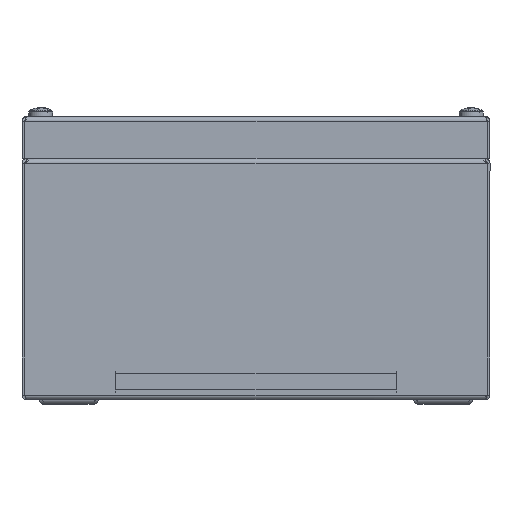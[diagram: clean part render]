
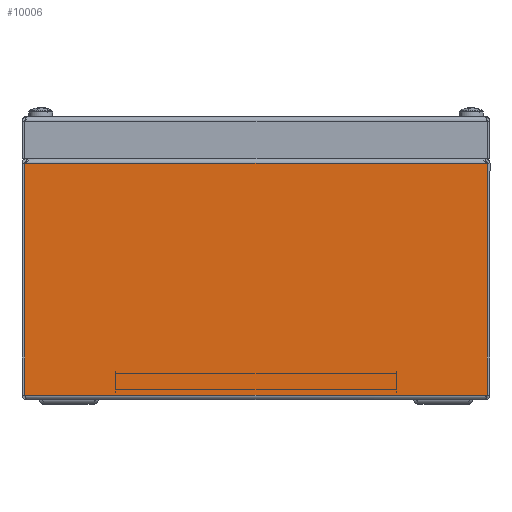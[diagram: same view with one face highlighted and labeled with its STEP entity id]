
A CAD part, front view. The second image highlights one B-rep face of the part: STEP entity #10006.
In plain terms, the highlighted planar face has unit normal (0, -1, 0).
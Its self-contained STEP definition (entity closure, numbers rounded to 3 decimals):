
#116 = PLANE ( 'NONE',  #7106 ) ;
#591 = CARTESIAN_POINT ( 'NONE',  ( -100., -200., 0.737 ) ) ;
#850 = CARTESIAN_POINT ( 'NONE',  ( -98.729, -200., 99.863 ) ) ;
#1375 = LINE ( 'NONE', #9859, #12292 ) ;
#1940 = CARTESIAN_POINT ( 'NONE',  ( 98.729, -200., 99.863 ) ) ;
#1948 = EDGE_CURVE ( 'NONE', #10435, #4527, #2020, .T. ) ;
#2020 = LINE ( 'NONE', #10284, #12389 ) ;
#3370 = DIRECTION ( 'NONE',  ( 0., 0., 1. ) ) ;
#3999 = EDGE_CURVE ( 'NONE', #5155, #4527, #10684, .T. ) ;
#4527 = VERTEX_POINT ( 'NONE', #850 ) ;
#4557 = ORIENTED_EDGE ( 'NONE', *, *, #6697, .T. ) ;
#5155 = VERTEX_POINT ( 'NONE', #1940 ) ;
#6363 = DIRECTION ( 'NONE',  ( -1., 0., 0. ) ) ;
#6374 = DIRECTION ( 'NONE',  ( 0., 0., 1. ) ) ;
#6697 = EDGE_CURVE ( 'NONE', #9268, #5155, #1375, .T. ) ;
#6942 = ORIENTED_EDGE ( 'NONE', *, *, #3999, .T. ) ;
#7106 = AXIS2_PLACEMENT_3D ( 'NONE', #8408, #9407, #7112 ) ;
#7112 = DIRECTION ( 'NONE',  ( 0., 0., 1. ) ) ;
#8088 = CARTESIAN_POINT ( 'NONE',  ( -98.729, -200., 0.737 ) ) ;
#8408 = CARTESIAN_POINT ( 'NONE',  ( 0., -200., 0. ) ) ;
#9002 = ORIENTED_EDGE ( 'NONE', *, *, #1948, .F. ) ;
#9268 = VERTEX_POINT ( 'NONE', #10876 ) ;
#9407 = DIRECTION ( 'NONE',  ( 0., 1., 0. ) ) ;
#9859 = CARTESIAN_POINT ( 'NONE',  ( 98.729, -200., 0.737 ) ) ;
#10006 = ADVANCED_FACE ( 'NONE', ( #12200 ), #116, .F. ) ;
#10161 = VECTOR ( 'NONE', #11324, 1000. ) ;
#10284 = CARTESIAN_POINT ( 'NONE',  ( -98.729, -200., 0.737 ) ) ;
#10435 = VERTEX_POINT ( 'NONE', #8088 ) ;
#10684 = LINE ( 'NONE', #14740, #10161 ) ;
#10876 = CARTESIAN_POINT ( 'NONE',  ( 98.729, -200., 0.737 ) ) ;
#11228 = EDGE_CURVE ( 'NONE', #9268, #10435, #11438, .T. ) ;
#11324 = DIRECTION ( 'NONE',  ( -1., 0., 0. ) ) ;
#11438 = LINE ( 'NONE', #591, #14146 ) ;
#11842 = EDGE_LOOP ( 'NONE', ( #6942, #9002, #13998, #4557 ) ) ;
#12200 = FACE_OUTER_BOUND ( 'NONE', #11842, .T. ) ;
#12292 = VECTOR ( 'NONE', #6374, 1000. ) ;
#12389 = VECTOR ( 'NONE', #3370, 1000. ) ;
#13998 = ORIENTED_EDGE ( 'NONE', *, *, #11228, .F. ) ;
#14146 = VECTOR ( 'NONE', #6363, 1000. ) ;
#14740 = CARTESIAN_POINT ( 'NONE',  ( 98.729, -200., 99.863 ) ) ;
